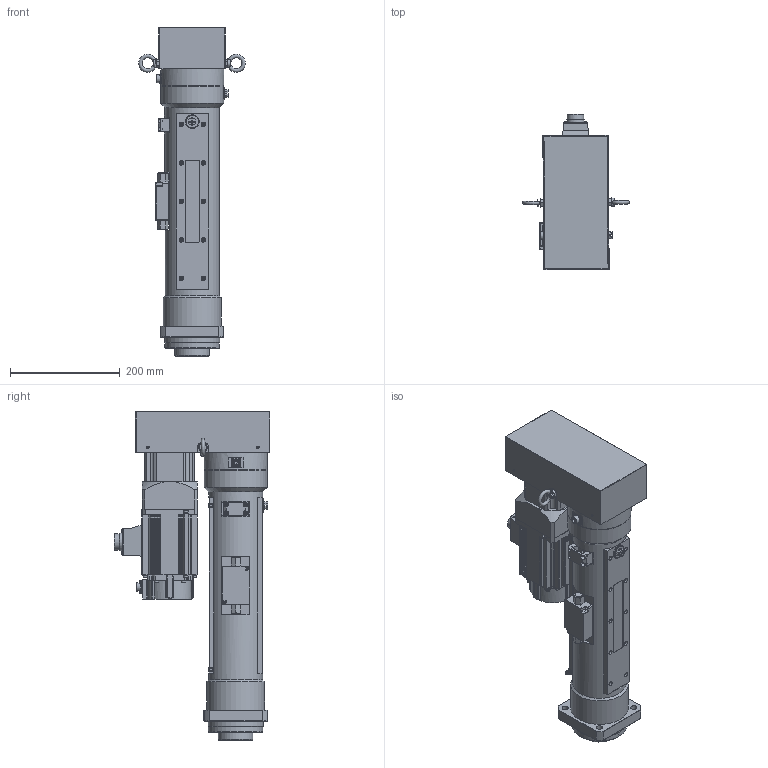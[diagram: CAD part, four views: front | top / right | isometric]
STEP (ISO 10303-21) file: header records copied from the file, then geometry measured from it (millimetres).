
FILE_DESCRIPTION(/* description */ (''),/* implementation_level */ '2;1');
FILE_NAME(/* name */ 'Z:\07.Product\01.Design\3D\1.P-All\OAICS-P\0000.Assembly\OACIS-P010,P015-250-200-A6V200.stp',/* time_stamp */ '2023-09-21T08:54:43+09:00',/* author */ ('magic'),/* organization */ (''),/* preprocessor_version */ 'ST-DEVELOPER v17',/* originating_system */ 'Autodesk Inventor 2019',/* authorisation */ '');
FILE_SCHEMA (('AUTOMOTIVE_DESIGN { 1 0 10303 214 3 1 1 }'));
Products named in the file (1): 303025010001_OACIS-P030-250-200-A5_v10.22_Shrinkwrap_1
Bounding box: 193.88 x 283.44 x 598 mm (x, y, z)
Volume: 6181046.4 mm3; surface area: 873151.6 mm2
Topology: 2 solids, 2 shells, 2188 faces, 5824 edges, 3846 vertices
Faces by surface type: plane 1000, cylinder 735, cone 231, bspline 108, sphere 60, torus 54
Full cylindrical faces by diameter (mm): 1 x6, 3.242 x37, 4.134 x4, 4.5 x33, 4.917 x19, 5 x2, 5.8 x2, 6.5 x2, 6.6 x10, 6.647 x8, 6.75 x4, 6.8 x1, 7 x12, 7.2 x2, 7.24 x2, 7.8 x2, 8 x45, 8.376 x8, 8.4 x1, 8.7 x1, 9 x12, 9.188 x1, 11 x4, 14 x9, 14.8 x1, 16.376 x1, 18 x1, 22 x1, 25 x1, 25.4 x2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
Entity records: 81227 total; most frequent: CARTESIAN_POINT 23689, DIRECTION 11750, ORIENTED_EDGE 11434, EDGE_CURVE 5717, AXIS2_PLACEMENT_3D 4407, VERTEX_POINT 3846, LINE 2936, VECTOR 2936
